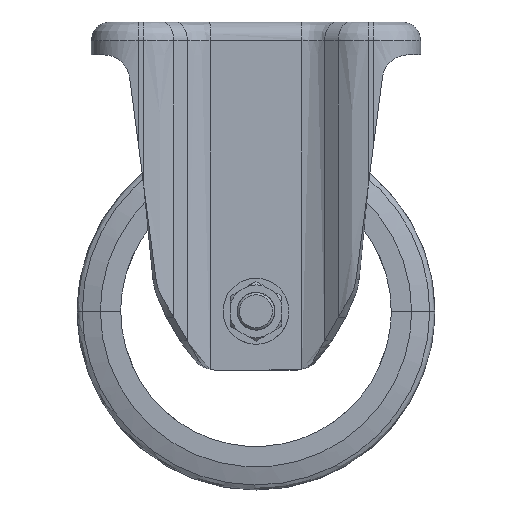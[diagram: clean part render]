
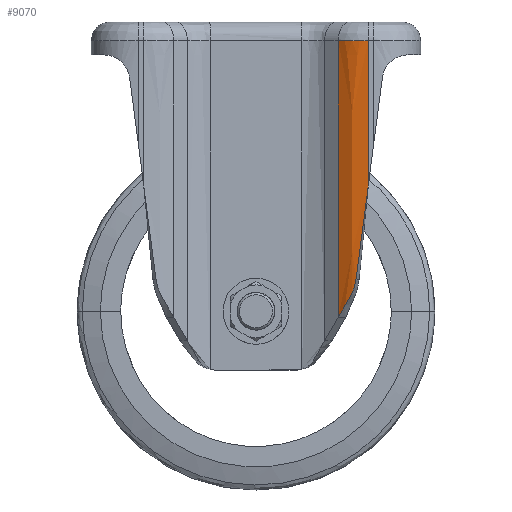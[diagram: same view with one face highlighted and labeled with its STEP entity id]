
A CAD part, left-side view. The second image highlights one B-rep face of the part: STEP entity #9070.
In plain terms, the highlighted free-form (B-spline) face has degree [3, 3] with [4, 7] control points.
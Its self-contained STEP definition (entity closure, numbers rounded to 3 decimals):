
#2072 = CARTESIAN_POINT ( 'NONE',  ( -48., -47.772, 71.53 ) ) ;
#2191 = CARTESIAN_POINT ( 'NONE',  ( -48., -47.772, 34.06 ) ) ;
#2192 = CARTESIAN_POINT ( 'NONE',  ( -48., -47.772, -3.41 ) ) ;
#2193 = CARTESIAN_POINT ( 'NONE',  ( -48., -47.772, 109. ) ) ;
#2194 = CARTESIAN_POINT ( 'NONE',  ( -48., -47.772, 111. ) ) ;
#2195 = CARTESIAN_POINT ( 'NONE',  ( -48., -47.772, 113. ) ) ;
#2196 = CARTESIAN_POINT ( 'NONE',  ( -48., -47.772, 115. ) ) ;
#2197 = CARTESIAN_POINT ( 'NONE',  ( -48., -43.07, -3.41 ) ) ;
#2198 = CARTESIAN_POINT ( 'NONE',  ( -48., -43.07, 34.06 ) ) ;
#2199 = CARTESIAN_POINT ( 'NONE',  ( -48., -43.07, 71.53 ) ) ;
#2200 = CARTESIAN_POINT ( 'NONE',  ( -48., -43.07, 109. ) ) ;
#2201 = CARTESIAN_POINT ( 'NONE',  ( -48., -43.07, 111. ) ) ;
#2202 = CARTESIAN_POINT ( 'NONE',  ( -48., -43.07, 113. ) ) ;
#2203 = CARTESIAN_POINT ( 'NONE',  ( -48., -43.07, 115. ) ) ;
#2204 = CARTESIAN_POINT ( 'NONE',  ( -46.343, -38.518, -3.41 ) ) ;
#2205 = CARTESIAN_POINT ( 'NONE',  ( -46.343, -38.518, 34.06 ) ) ;
#2206 = CARTESIAN_POINT ( 'NONE',  ( -46.343, -38.518, 71.53 ) ) ;
#2207 = CARTESIAN_POINT ( 'NONE',  ( -46.343, -38.518, 109. ) ) ;
#2208 = CARTESIAN_POINT ( 'NONE',  ( -46.343, -38.518, 111. ) ) ;
#2209 = CARTESIAN_POINT ( 'NONE',  ( -46.343, -38.518, 113. ) ) ;
#2210 = CARTESIAN_POINT ( 'NONE',  ( -46.343, -38.518, 115. ) ) ;
#2211 = CARTESIAN_POINT ( 'NONE',  ( -43.321, -34.916, -3.41 ) ) ;
#2212 = CARTESIAN_POINT ( 'NONE',  ( -43.321, -34.916, 34.06 ) ) ;
#2213 = CARTESIAN_POINT ( 'NONE',  ( -43.321, -34.916, 71.53 ) ) ;
#2214 = CARTESIAN_POINT ( 'NONE',  ( -43.321, -34.916, 109. ) ) ;
#2215 = CARTESIAN_POINT ( 'NONE',  ( -43.321, -34.916, 111. ) ) ;
#2216 = CARTESIAN_POINT ( 'NONE',  ( -43.321, -34.916, 113. ) ) ;
#2217 = CARTESIAN_POINT ( 'NONE',  ( -43.321, -34.916, 115. ) ) ;
#4934 = VERTEX_POINT ( 'NONE', #44370 ) ;
#4935 = VERTEX_POINT ( 'NONE', #44369 ) ;
#4945 = VERTEX_POINT ( 'NONE', #44338 ) ;
#4987 = ORIENTED_EDGE ( 'NONE', *, *, #8712, .F. ) ;
#4988 = ORIENTED_EDGE ( 'NONE', *, *, #8714, .F. ) ;
#4990 = ORIENTED_EDGE ( 'NONE', *, *, #8717, .F. ) ;
#5001 = ORIENTED_EDGE ( 'NONE', *, *, #8702, .F. ) ;
#5068 = ORIENTED_EDGE ( 'NONE', *, *, #31339, .F. ) ;
#8213 = FACE_OUTER_BOUND ( 'NONE', #42613, .T. ) ;
#8702 = EDGE_CURVE ( 'NONE', #4934, #46957, #16344, .T. ) ;
#8712 = EDGE_CURVE ( 'NONE', #47159, #4935, #16383, .T. ) ;
#8714 = EDGE_CURVE ( 'NONE', #4935, #4945, #25165, .T. ) ;
#8717 = EDGE_CURVE ( 'NONE', #4945, #4934, #25166, .T. ) ;
#9070 = ADVANCED_FACE ( 'NONE', ( #8213 ), #26072, .F. ) ;
#14992 = CARTESIAN_POINT ( 'NONE',  ( -43.321, -34.916, 115. ) ) ;
#15003 = CARTESIAN_POINT ( 'NONE',  ( -43.433, -35.051, 115. ) ) ;
#15005 = CARTESIAN_POINT ( 'NONE',  ( -43.557, -35.202, 115. ) ) ;
#15007 = CARTESIAN_POINT ( 'NONE',  ( -43.673, -35.348, 115. ) ) ;
#15009 = CARTESIAN_POINT ( 'NONE',  ( -44.418, -36.288, 115. ) ) ;
#15011 = CARTESIAN_POINT ( 'NONE',  ( -45.079, -37.296, 115. ) ) ;
#15013 = CARTESIAN_POINT ( 'NONE',  ( -45.644, -38.355, 115. ) ) ;
#15015 = CARTESIAN_POINT ( 'NONE',  ( -46.397, -39.766, 115. ) ) ;
#15017 = CARTESIAN_POINT ( 'NONE',  ( -46.981, -41.269, 115. ) ) ;
#15019 = CARTESIAN_POINT ( 'NONE',  ( -47.377, -42.819, 115. ) ) ;
#15021 = CARTESIAN_POINT ( 'NONE',  ( -47.773, -44.369, 115. ) ) ;
#15023 = CARTESIAN_POINT ( 'NONE',  ( -47.983, -45.967, 115. ) ) ;
#15025 = CARTESIAN_POINT ( 'NONE',  ( -47.999, -47.567, 115. ) ) ;
#15027 = CARTESIAN_POINT ( 'NONE',  ( -48., -47.637, 115. ) ) ;
#15029 = CARTESIAN_POINT ( 'NONE',  ( -48., -47.707, 115. ) ) ;
#15031 = CARTESIAN_POINT ( 'NONE',  ( -48., -47.772, 115. ) ) ;
#16344 = LINE ( 'NONE', #22434, #16380 ) ;
#16380 = VECTOR ( 'NONE', #22436, 1000. ) ;
#16383 = LINE ( 'NONE', #22447, #16386 ) ;
#16386 = VECTOR ( 'NONE', #22448, 1000. ) ;
#22434 = CARTESIAN_POINT ( 'NONE',  ( -43.321, -34.916, -25. ) ) ;
#22436 = DIRECTION ( 'NONE',  ( 0., 0., 1. ) ) ;
#22442 = CARTESIAN_POINT ( 'NONE',  ( -48., -47.772, 53.693 ) ) ;
#22446 = CARTESIAN_POINT ( 'NONE',  ( -47.298, -42.519, 13.494 ) ) ;
#22447 = CARTESIAN_POINT ( 'NONE',  ( -48., -47.772, -25. ) ) ;
#22448 = DIRECTION ( 'NONE',  ( 0., 0., -1. ) ) ;
#22449 = CARTESIAN_POINT ( 'NONE',  ( -48., -46.021, 40.29 ) ) ;
#22450 = CARTESIAN_POINT ( 'NONE',  ( -47.774, -44.268, 26.888 ) ) ;
#22451 = CARTESIAN_POINT ( 'NONE',  ( -47.298, -42.519, 13.494 ) ) ;
#22453 = CARTESIAN_POINT ( 'NONE',  ( -47.27, -42.416, 12.727 ) ) ;
#22454 = CARTESIAN_POINT ( 'NONE',  ( -47.23, -42.272, 11.967 ) ) ;
#22455 = CARTESIAN_POINT ( 'NONE',  ( -47.119, -41.9, 10.468 ) ) ;
#22456 = CARTESIAN_POINT ( 'NONE',  ( -47.049, -41.67, 9.731 ) ) ;
#22457 = CARTESIAN_POINT ( 'NONE',  ( -46.866, -41.127, 8.294 ) ) ;
#22458 = CARTESIAN_POINT ( 'NONE',  ( -46.754, -40.814, 7.593 ) ) ;
#22459 = CARTESIAN_POINT ( 'NONE',  ( -46.548, -40.289, 6.579 ) ) ;
#22460 = CARTESIAN_POINT ( 'NONE',  ( -46.472, -40.103, 6.248 ) ) ;
#22461 = CARTESIAN_POINT ( 'NONE',  ( -46.31, -39.722, 5.594 ) ) ;
#22462 = CARTESIAN_POINT ( 'NONE',  ( -46.225, -39.532, 5.268 ) ) ;
#22463 = CARTESIAN_POINT ( 'NONE',  ( -45.785, -38.586, 3.64 ) ) ;
#22464 = CARTESIAN_POINT ( 'NONE',  ( -45.381, -37.839, 2.349 ) ) ;
#22465 = CARTESIAN_POINT ( 'NONE',  ( -44.449, -36.362, -0.204 ) ) ;
#22466 = CARTESIAN_POINT ( 'NONE',  ( -43.921, -35.632, -1.467 ) ) ;
#22467 = CARTESIAN_POINT ( 'NONE',  ( -43.321, -34.916, -2.703 ) ) ;
#25165 = B_SPLINE_CURVE_WITH_KNOTS ( 'NONE', 3,
 ( #22442, #22449, #22450, #22451 ),
 .UNSPECIFIED., .F., .F.,
 ( 4, 4 ),
 ( 0., 0.041 ),
 .UNSPECIFIED. ) ;
#25166 = B_SPLINE_CURVE_WITH_KNOTS ( 'NONE', 3,
 ( #22446, #22453, #22454, #22455, #22456, #22457, #22458, #22459, #22460, #22461, #22462, #22463, #22464, #22465, #22466, #22467 ),
 .UNSPECIFIED., .F., .F.,
 ( 4, 2, 2, 2, 2, 2, 2, 4 ),
 ( -0.016, -0.014, -0.011, -0.009, -0.008, -0.007, -0.002, 0.003 ),
 .UNSPECIFIED. ) ;
#26072 = B_SPLINE_SURFACE_WITH_KNOTS ( 'NONE', 3, 3, ( 
 ( #2192, #2191, #2072, #2193, #2194, #2195, #2196 ),
 ( #2197, #2198, #2199, #2200, #2201, #2202, #2203 ),
 ( #2204, #2205, #2206, #2207, #2208, #2209, #2210 ),
 ( #2211, #2212, #2213, #2214, #2215, #2216, #2217 ) ),
 .UNSPECIFIED., .F., .F., .F.,
 ( 4, 4 ),
 ( 4, 3, 4 ),
 ( 0., 1. ),
 ( 0.154, 0.957, 1. ),
 .UNSPECIFIED. ) ;
#28312 = B_SPLINE_CURVE_WITH_KNOTS ( 'NONE', 3,
 ( #14992, #15003, #15005, #15007, #15009, #15011, #15013, #15015, #15017, #15019, #15021, #15023, #15025, #15027, #15029, #15031 ),
 .UNSPECIFIED., .F., .F.,
 ( 4, 3, 3, 3, 3, 4 ),
 ( 0., 0.04, 0.298, 0.641, 0.985, 1. ),
 .UNSPECIFIED. ) ;
#31339 = EDGE_CURVE ( 'NONE', #46957, #47159, #28312, .T. ) ;
#42613 = EDGE_LOOP ( 'NONE', ( #4990, #4988, #4987, #5068, #5001 ) ) ;
#43584 = CARTESIAN_POINT ( 'NONE',  ( -43.321, -34.916, 115. ) ) ;
#43785 = CARTESIAN_POINT ( 'NONE',  ( -48., -47.772, 115. ) ) ;
#44338 = CARTESIAN_POINT ( 'NONE',  ( -47.298, -42.519, 13.494 ) ) ;
#44369 = CARTESIAN_POINT ( 'NONE',  ( -48., -47.772, 53.693 ) ) ;
#44370 = CARTESIAN_POINT ( 'NONE',  ( -43.321, -34.916, -2.703 ) ) ;
#46957 = VERTEX_POINT ( 'NONE', #43584 ) ;
#47159 = VERTEX_POINT ( 'NONE', #43785 ) ;
